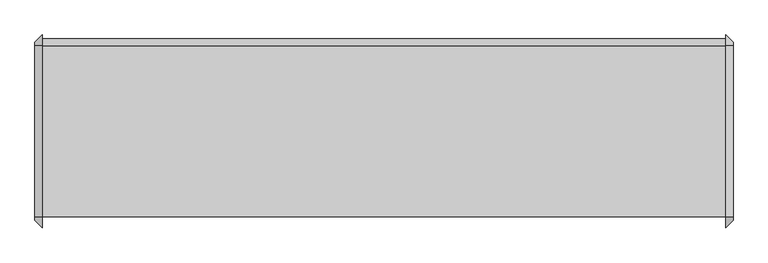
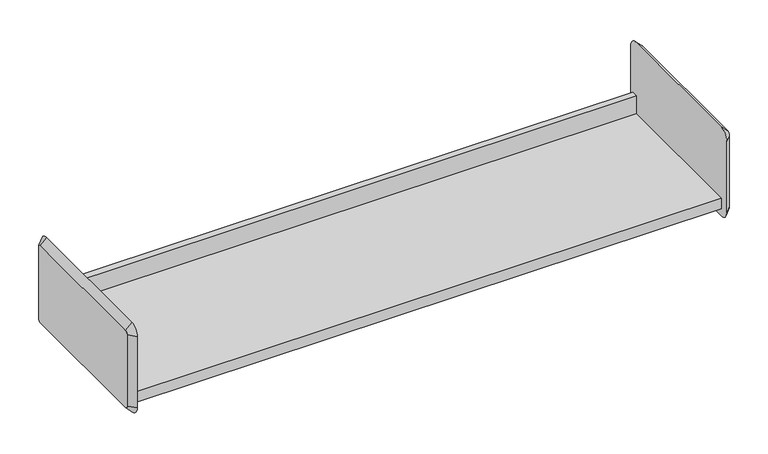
"""IFC4 building model written with IfcOpenShell, lengths in millimetres: furniture geometry."""

from ifc_helpers import new_model, si_unit, frame, origin, place, context, project, spatial, polyline, circle_curve, outline, extrude, source, transform, mapped, element, save
from ifc_brep_helpers import plane_surface, revolved_surface, advanced_brep


def furniture_287f42d7(model_context):
    return source(origin(), model_context, "Body", "SolidModel", [
        extrude(outline(polyline([(-136.525, 1270.0), (161.925, 1270.0), (161.925, 1308.1), (174.625, 1308.1), (174.625, 1304.925), (165.1, 1304.925), (165.1, 1266.825), (-133.35, 1266.825), (-133.35, 1247.775), (-136.525, 1247.775), (-136.525, 1270.0)])), frame((-720.8420045, 0.0, 0.0), z_axis=(1.0, 0.0, 0.0), x_axis=(0.0, 1.0, 0.0)), (0.0, 0.0, 1.0), 1193.8),
        advanced_brep(
        [(485.6579955, 161.925, 1409.7), (485.6579955, -136.525, 1409.7), (485.6579955, -142.875, 1403.35), (485.6579955, -142.875, 1250.95), (485.6579955, -136.525, 1244.6), (485.6579955, 161.925, 1244.6), (485.6579955, 168.275, 1250.95), (485.6579955, 168.275, 1403.35), (472.9579955, 161.925, 1422.4), (472.9579955, 180.975, 1403.35), (472.9579955, 180.975, 1250.95), (472.9579955, 161.925, 1231.9), (472.9579955, -136.525, 1231.9), (472.9579955, -155.575, 1250.95), (472.9579955, -155.575, 1403.35), (472.9579955, -136.525, 1422.4)],
        [
            (0, 1),
            (1, 2, circle_curve(frame((485.6579955, -136.525, 1403.35), z_axis=(1.0, 2.0730084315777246e-12, -2.1529444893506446e-12), x_axis=(2.15291077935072e-12, 0.0, 1.0)), 6.35)),
            (2, 3),
            (3, 4, circle_curve(frame((485.6579955, -136.525, 1250.95), z_axis=(1.0, 2.0596857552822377e-12, 2.06767936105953e-12), x_axis=(2.059647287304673e-12, -1.0, 0.0)), 6.35)),
            (4, 5),
            (5, 6, circle_curve(frame((485.6579955, 161.925, 1250.95), z_axis=(1.0, 2.0889956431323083e-12, -2.0889956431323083e-12), x_axis=(-2.0890080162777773e-12, 0.0, -1.0)), 6.35)),
            (6, 7),
            (7, 0, circle_curve(frame((485.6579955, 161.925, 1403.35), z_axis=(1.0, 2.0756729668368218e-12, 2.003730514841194e-12), x_axis=(-2.0756622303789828e-12, 1.0, 0.0)), 6.35)),
            (8, 9, circle_curve(frame((472.9579955, 161.925, 1403.35), z_axis=(-1.0, -2.0756729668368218e-12, -2.003730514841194e-12), x_axis=(-2.0756622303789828e-12, 1.0, 0.0)), 19.05)),
            (9, 10),
            (10, 11, circle_curve(frame((472.9579955, 161.925, 1250.95), z_axis=(-1.0, -2.0889956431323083e-12, 2.0889956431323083e-12), x_axis=(-2.0890080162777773e-12, 0.0, -1.0)), 19.05)),
            (11, 12),
            (12, 13, circle_curve(frame((472.9579955, -136.525, 1250.95), z_axis=(-1.0, -2.0596857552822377e-12, -2.06767936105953e-12), x_axis=(2.059647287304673e-12, -1.0, 0.0)), 19.05)),
            (13, 14),
            (14, 15, circle_curve(frame((472.9579955, -136.525, 1403.35), z_axis=(-1.0, -2.0730084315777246e-12, 2.1529444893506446e-12), x_axis=(2.15291077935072e-12, 0.0, 1.0)), 19.05)),
            (15, 8),
            (15, 1),
            (0, 8),
            (14, 2),
            (13, 3),
            (12, 4),
            (11, 5),
            (10, 6),
            (9, 7),
        ],
        [
            plane_surface(frame((485.6579955, 12.7, 1327.15), z_axis=(1.0, 0.0, 0.0), x_axis=(0.0, -1.0, 0.0))),
            plane_surface(frame((472.9579955, 12.7, 1327.15), z_axis=(-1.0, 0.0, 0.0), x_axis=(0.0, -1.0, 0.0))),
            plane_surface(frame((472.9579955, 12.7, 1422.4), z_axis=(0.7071067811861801, 0.0, 0.707106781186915), x_axis=(0.0, -1.0, 0.0))),
            revolved_surface(polyline([(485.6579955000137, -136.525, 1409.6999999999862), (472.9579955, -136.525, 1422.4)]), (492.0079955, -136.525, 1403.35), (-1.0, -2.0730084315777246e-12, 2.1529444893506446e-12)),
            plane_surface(frame((472.9579955, -155.575, 1327.15), z_axis=(0.7071067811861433, -0.7071067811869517, 0.0), x_axis=(0.0, 0.0, -1.0))),
            revolved_surface(polyline([(485.6579955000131, -142.87499999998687, 1250.95), (472.9579954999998, -155.57500000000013, 1250.95)]), (492.0079955, -136.525, 1250.95), (-1.0, -2.0596857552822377e-12, -2.06767936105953e-12)),
            plane_surface(frame((472.9579955, 12.7, 1231.9), z_axis=(0.7071067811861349, 0.0, -0.7071067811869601), x_axis=(0.0, 1.0, 0.0))),
            revolved_surface(polyline([(485.6579955, 161.925, 1244.6000000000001), (472.9579954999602, 161.925, 1231.8999999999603)]), (492.0079955, 161.925, 1250.95), (-1.0, -2.0889956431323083e-12, 2.0889956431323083e-12)),
            plane_surface(frame((472.9579955, 180.975, 1327.15), z_axis=(0.7071067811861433, 0.7071067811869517, 0.0), x_axis=(0.0, 0.0, 1.0))),
            revolved_surface(polyline([(485.6579955, 168.27499999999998, 1403.35), (472.9579954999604, 180.97500000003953, 1403.35)]), (492.0079955, 161.925, 1403.35), (-1.0, -2.0756729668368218e-12, -2.003730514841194e-12)),
        ],
        [
            (0, [[1, 2, 3, 4, 5, 6, 7, 8]]),
            (1, [[9, 10, 11, 12, 13, 14, 15, 16]]),
            (2, [[-16, 17, -1, 18]]),
            (3, [[-15, 19, -2, -17]]),
            (4, [[-14, 20, -3, -19]]),
            (5, [[-13, 21, -4, -20]]),
            (6, [[-12, 22, -5, -21]]),
            (7, [[-11, 23, -6, -22]]),
            (8, [[-10, 24, -7, -23]]),
            (9, [[-9, -18, -8, -24]]),
        ],
    ),
        advanced_brep(
        [(-733.5420045, -136.525, 1409.7), (-733.5420045, 161.925, 1409.7), (-733.5420045, 168.275, 1403.35), (-733.5420045, 168.275, 1250.95), (-733.5420045, 161.925, 1244.6), (-733.5420045, -136.525, 1244.6), (-733.5420045, -142.875, 1250.95), (-733.5420045, -142.875, 1403.35), (-720.8420045, -136.525, 1422.4), (-720.8420045, -155.575, 1403.35), (-720.8420045, -155.575, 1250.95), (-720.8420045, -136.525, 1231.9), (-720.8420045, 161.925, 1231.9), (-720.8420045, 180.975, 1250.95), (-720.8420045, 180.975, 1403.35), (-720.8420045, 161.925, 1422.4)],
        [
            (0, 1),
            (1, 2, circle_curve(frame((-733.5420045, 161.925, 1403.35), z_axis=(-1.0, 0.0, 0.0), x_axis=(0.0, 0.0, 1.0)), 6.35)),
            (2, 3),
            (3, 4, circle_curve(frame((-733.5420045, 161.925, 1250.95), z_axis=(-1.0, 0.0, 0.0), x_axis=(0.0, 1.0, 0.0)), 6.35)),
            (4, 5),
            (5, 6, circle_curve(frame((-733.5420045, -136.525, 1250.95), z_axis=(-1.0, 0.0, 0.0), x_axis=(0.0, 0.0, -1.0)), 6.35)),
            (6, 7),
            (7, 0, circle_curve(frame((-733.5420045, -136.525, 1403.35), z_axis=(-1.0, 0.0, 0.0), x_axis=(0.0, -1.0, 0.0)), 6.35)),
            (8, 9, circle_curve(frame((-720.8420045, -136.525, 1403.35), z_axis=(1.0, 0.0, 0.0), x_axis=(0.0, -1.0, 0.0)), 19.05)),
            (9, 10),
            (10, 11, circle_curve(frame((-720.8420045, -136.525, 1250.95), z_axis=(1.0, 0.0, 0.0), x_axis=(0.0, 0.0, -1.0)), 19.05)),
            (11, 12),
            (12, 13, circle_curve(frame((-720.8420045, 161.925, 1250.95), z_axis=(1.0, 0.0, 0.0), x_axis=(0.0, 1.0, 0.0)), 19.05)),
            (13, 14),
            (14, 15, circle_curve(frame((-720.8420045, 161.925, 1403.35), z_axis=(1.0, 0.0, 0.0), x_axis=(0.0, 0.0, 1.0)), 19.05)),
            (15, 8),
            (15, 1),
            (0, 8),
            (14, 2),
            (13, 3),
            (12, 4),
            (11, 5),
            (10, 6),
            (9, 7),
        ],
        [
            plane_surface(frame((-733.5420045, 12.7, 1327.15), z_axis=(-1.0, 0.0, 0.0), x_axis=(0.0, -1.0, 0.0))),
            plane_surface(frame((-720.8420045, 12.7, 1327.15), z_axis=(1.0, 0.0, 0.0), x_axis=(0.0, -1.0, 0.0))),
            plane_surface(frame((-720.8420045, 12.7, 1422.4), z_axis=(-0.7071067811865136, 0.0, 0.7071067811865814), x_axis=(0.0, 1.0, 0.0))),
            revolved_surface(polyline([(-733.5420045, 161.925, 1409.7), (-720.8420045, 161.925, 1422.4)]), (-739.8920045, 161.925, 1403.35), (1.0, 0.0, 0.0)),
            plane_surface(frame((-720.8420045, 180.975, 1327.15), z_axis=(-0.7071067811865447, 0.7071067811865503, 0.0), x_axis=(0.0, 0.0, -1.0))),
            revolved_surface(polyline([(-733.5420045, 168.27500000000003, 1250.95), (-720.8420045, 180.975, 1250.95)]), (-739.8920045, 161.925, 1250.95), (1.0, 0.0, 0.0)),
            plane_surface(frame((-720.8420045, 12.7, 1231.9), z_axis=(-0.70710678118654, 0.0, -0.707106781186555), x_axis=(0.0, -1.0, 0.0))),
            revolved_surface(polyline([(-733.5420045, -136.525, 1244.6), (-720.8420045, -136.525, 1231.9)]), (-739.8920045, -136.525, 1250.95), (1.0, 0.0, 0.0)),
            plane_surface(frame((-720.8420045, -155.575, 1327.15), z_axis=(-0.7071067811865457, -0.7071067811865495, 0.0), x_axis=(0.0, 0.0, 1.0))),
            revolved_surface(polyline([(-733.5420045, -142.87500000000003, 1403.35), (-720.8420045, -155.575, 1403.35)]), (-739.8920045, -136.525, 1403.35), (1.0, 0.0, 0.0)),
        ],
        [
            (0, [[1, 2, 3, 4, 5, 6, 7, 8]]),
            (1, [[9, 10, 11, 12, 13, 14, 15, 16]]),
            (2, [[-16, 17, -1, 18]]),
            (3, [[-15, 19, -2, -17]]),
            (4, [[-14, 20, -3, -19]]),
            (5, [[-13, 21, -4, -20]]),
            (6, [[-12, 22, -5, -21]]),
            (7, [[-11, 23, -6, -22]]),
            (8, [[-10, 24, -7, -23]]),
            (9, [[-9, -18, -8, -24]]),
        ],
    ),
    ])


if __name__ == "__main__":
    model = new_model("IFC4")
    model_context = context("Model", 3, world=origin())
    ifc_project = project(units=[si_unit("LENGTHUNIT", "METRE", prefix="MILLI")], contexts=[model_context])
    site = spatial("IfcSite", under=ifc_project)
    building = spatial("IfcBuilding", under=site)
    placement = place(None, origin())
    furniture_shape = furniture_287f42d7(model_context)
    element("IfcFurniture", 1, ObjectType="HermanMiller_ActionOffice_A3220_B-StyleStorageDisplay : Shelf 13\"D x 48\"W", at=placement, inside=building, context=model_context, shape_type="MappedRepresentation", body=[
        mapped(furniture_shape, transform((0.0, 0.0, 0.0), x_axis=(1.0, 0.0, 0.0), y_axis=(0.0, 1.0, 0.0), z_axis=(0.0, 0.0, 1.0))),
    ])
    save(model, "model.ifc")
